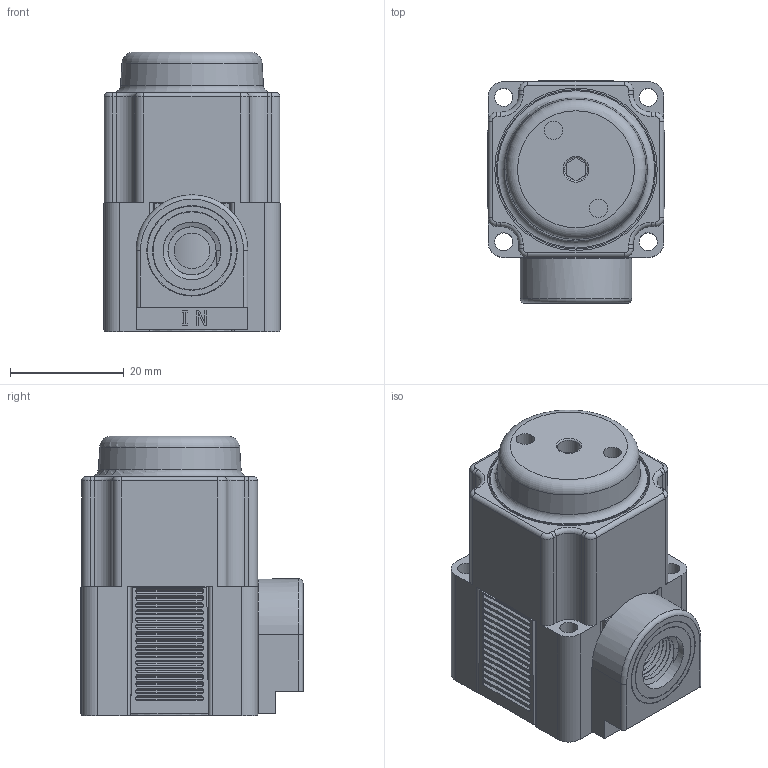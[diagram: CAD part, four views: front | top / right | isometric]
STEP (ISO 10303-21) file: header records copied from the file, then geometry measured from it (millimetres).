
FILE_DESCRIPTION(/* description */ (''),/* implementation_level */ '2;1');
FILE_NAME(/* name */ 'K:\Normteile INVENTOR\Air-Logic\Regulators\PR7000\PR 7___ 1 1''8-27 NPT Threads In.igs.ipt.stp',/* time_stamp */ '2020-05-27T10:53:49+02:00',/* author */ ('Paul'),/* organization */ (''),/* preprocessor_version */ 'ST-DEVELOPER v18',/* originating_system */ 'Autodesk Inventor 2020',/* authorisation */ '');
FILE_SCHEMA (('AUTOMOTIVE_DESIGN { 1 0 10303 214 3 1 1 }'));
Length unit declared in the file: inch
Products named in the file (1): PR 7___ 1 1'8-27 NPT Threads In.igs
Bounding box: 31.19 x 39.06 x 49.15 mm (x, y, z)
Volume: 41522.4 mm3; surface area: 13679.4 mm2
Topology: 1 solids, 1 shells, 633 faces, 1650 edges, 1079 vertices
Faces by surface type: plane 326, cylinder 267, torus 20, bspline 18, cone 2
Full cylindrical faces by diameter (mm): 3.175 x4, 3.226 x2, 4.013 x1, 6.248 x1, 8.458 x7, 9.169 x1, 9.652 x1, 10.163 x7, 12.903 x1, 13.716 x1, 13.872 x1, 15.707 x1, 15.913 x1, 26.264 x1, 27.991 x1, 28.047 x1, 28.575 x1
Entity records: 24348 total; most frequent: CARTESIAN_POINT 7658, DIRECTION 3499, ORIENTED_EDGE 3300, EDGE_CURVE 1650, AXIS2_PLACEMENT_3D 1368, VERTEX_POINT 1079, LINE 763, VECTOR 763
